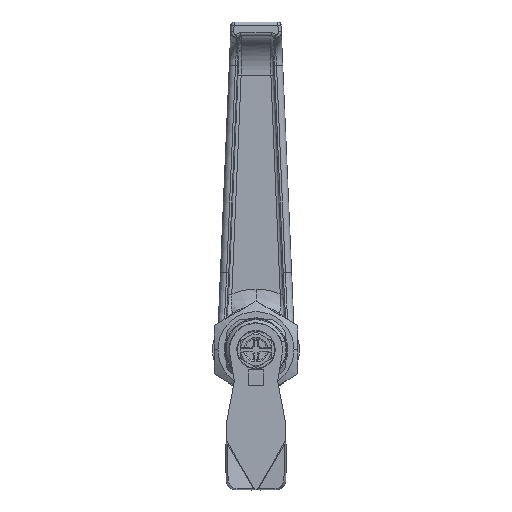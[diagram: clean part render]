
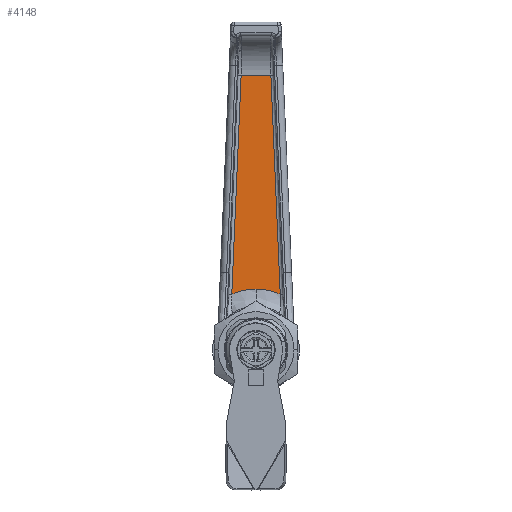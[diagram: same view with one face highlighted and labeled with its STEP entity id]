
A CAD part, front view. The second image highlights one B-rep face of the part: STEP entity #4148.
In plain terms, the highlighted planar face has unit normal (0, -1, 0).
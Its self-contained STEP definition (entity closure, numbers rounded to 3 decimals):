
#765 = EDGE_CURVE ( 'NONE', #7378, #9230, #1113, .T. ) ;
#807 = CARTESIAN_POINT ( 'NONE',  ( 0., 29., 19.5 ) ) ;
#947 = VECTOR ( 'NONE', #10488, 1000. ) ;
#1075 = VERTEX_POINT ( 'NONE', #8988 ) ;
#1113 = B_SPLINE_CURVE_WITH_KNOTS ( 'NONE', 3,
 ( #19148, #19544, #19227, #19142, #19128, #19123 ),
 .UNSPECIFIED., .F., .F.,
 ( 4, 2, 4 ),
 ( 0., 0.5, 1. ),
 .UNSPECIFIED. ) ;
#1625 = DIRECTION ( 'NONE',  ( 0., 1., 0. ) ) ;
#1658 = CARTESIAN_POINT ( 'NONE',  ( 0., 29., 0. ) ) ;
#1700 = EDGE_CURVE ( 'NONE', #4941, #1075, #9310, .T. ) ;
#2801 = LINE ( 'NONE', #10460, #947 ) ;
#3705 = EDGE_CURVE ( 'NONE', #1075, #9230, #2801, .T. ) ;
#4148 = ADVANCED_FACE ( 'NONE', ( #13294 ), #8444, .F. ) ;
#4941 = VERTEX_POINT ( 'NONE', #13427 ) ;
#5105 = CARTESIAN_POINT ( 'NONE',  ( -7.796, 29., 17.874 ) ) ;
#5794 = CARTESIAN_POINT ( 'NONE',  ( -5.295, 29., 18.815 ) ) ;
#5885 = VERTEX_POINT ( 'NONE', #13574 ) ;
#6178 = AXIS2_PLACEMENT_3D ( 'NONE', #1658, #1625, #7839 ) ;
#7378 = VERTEX_POINT ( 'NONE', #807 ) ;
#7560 = CARTESIAN_POINT ( 'NONE',  ( -1.342, 29., 19.5 ) ) ;
#7839 = DIRECTION ( 'NONE',  ( 0., 0., 1. ) ) ;
#8292 = LINE ( 'NONE', #5105, #8316 ) ;
#8316 = VECTOR ( 'NONE', #17808, 1000. ) ;
#8444 = PLANE ( 'NONE',  #6178 ) ;
#8988 = CARTESIAN_POINT ( 'NONE',  ( 4.789, 29., 88.387 ) ) ;
#9230 = VERTEX_POINT ( 'NONE', #14174 ) ;
#9310 = LINE ( 'NONE', #16154, #9332 ) ;
#9332 = VECTOR ( 'NONE', #16099, 1000. ) ;
#10285 = EDGE_CURVE ( 'NONE', #5885, #4941, #8292, .T. ) ;
#10460 = CARTESIAN_POINT ( 'NONE',  ( 4.789, 29., 88.387 ) ) ;
#10488 = DIRECTION ( 'NONE',  ( 0.043, 0., -0.999 ) ) ;
#11077 = B_SPLINE_CURVE_WITH_KNOTS ( 'NONE', 3,
 ( #13813, #18224, #5794, #16861, #7560, #18426 ),
 .UNSPECIFIED., .F., .F.,
 ( 4, 2, 4 ),
 ( 0., 0.5, 1. ),
 .UNSPECIFIED. ) ;
#11185 = ORIENTED_EDGE ( 'NONE', *, *, #13158, .T. ) ;
#11289 = ORIENTED_EDGE ( 'NONE', *, *, #765, .T. ) ;
#11305 = ORIENTED_EDGE ( 'NONE', *, *, #3705, .F. ) ;
#11378 = ORIENTED_EDGE ( 'NONE', *, *, #1700, .F. ) ;
#11399 = ORIENTED_EDGE ( 'NONE', *, *, #10285, .F. ) ;
#13158 = EDGE_CURVE ( 'NONE', #5885, #7378, #11077, .T. ) ;
#13294 = FACE_OUTER_BOUND ( 'NONE', #15996, .T. ) ;
#13427 = CARTESIAN_POINT ( 'NONE',  ( -4.789, 29., 88.387 ) ) ;
#13574 = CARTESIAN_POINT ( 'NONE',  ( -7.796, 29., 17.874 ) ) ;
#13813 = CARTESIAN_POINT ( 'NONE',  ( -7.796, 29., 17.874 ) ) ;
#14174 = CARTESIAN_POINT ( 'NONE',  ( 7.796, 29., 17.874 ) ) ;
#15996 = EDGE_LOOP ( 'NONE', ( #11185, #11289, #11305, #11378, #11399 ) ) ;
#16099 = DIRECTION ( 'NONE',  ( 1., 0., 0. ) ) ;
#16154 = CARTESIAN_POINT ( 'NONE',  ( 0., 29., 88.387 ) ) ;
#16861 = CARTESIAN_POINT ( 'NONE',  ( -2.669, 29., 19.363 ) ) ;
#17808 = DIRECTION ( 'NONE',  ( 0.043, 0., 0.999 ) ) ;
#18224 = CARTESIAN_POINT ( 'NONE',  ( -6.566, 29., 18.41 ) ) ;
#18426 = CARTESIAN_POINT ( 'NONE',  ( 0., 29., 19.5 ) ) ;
#19123 = CARTESIAN_POINT ( 'NONE',  ( 7.796, 29., 17.874 ) ) ;
#19128 = CARTESIAN_POINT ( 'NONE',  ( 6.567, 29., 18.41 ) ) ;
#19142 = CARTESIAN_POINT ( 'NONE',  ( 5.295, 29., 18.815 ) ) ;
#19148 = CARTESIAN_POINT ( 'NONE',  ( 0., 29., 19.5 ) ) ;
#19227 = CARTESIAN_POINT ( 'NONE',  ( 2.669, 29., 19.363 ) ) ;
#19544 = CARTESIAN_POINT ( 'NONE',  ( 1.342, 29., 19.5 ) ) ;
